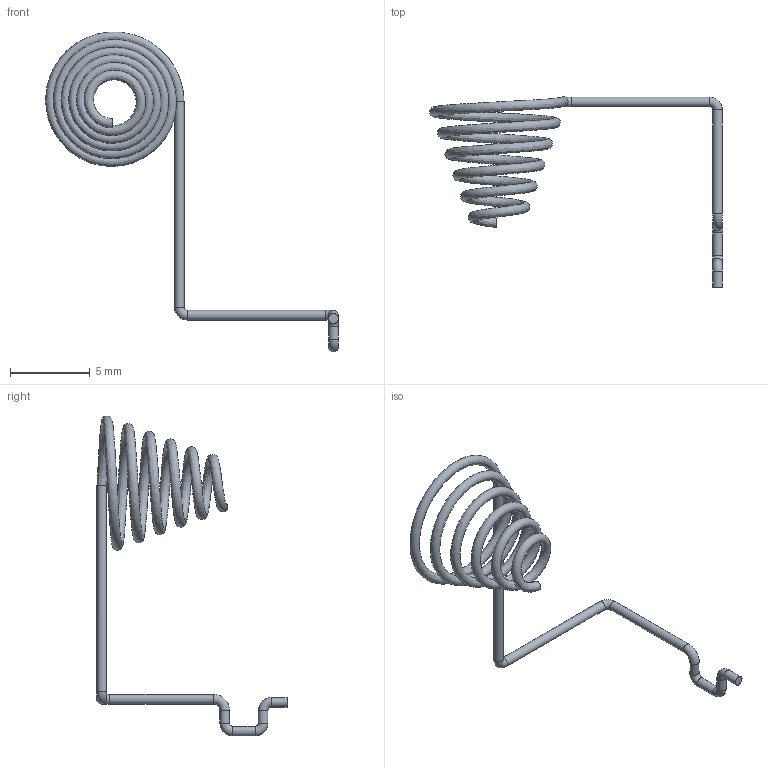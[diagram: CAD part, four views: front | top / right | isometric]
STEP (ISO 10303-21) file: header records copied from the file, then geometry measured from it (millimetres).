
FILE_DESCRIPTION(/* description */ (''),/* implementation_level */ '2;1');
FILE_NAME(/* name */ 'C:/Users/RileyStevenson/RileyS/Battery Coils/Negative Coil v9.step',/* time_stamp */ '2022-02-17T22:42:23-06:00',/* author */ (''),/* organization */ (''),/* preprocessor_version */ 'ST-DEVELOPER v18.1',/* originating_system */ 'Autodesk Translation Framework v10.13.0.1454',/* authorisation */ '');
FILE_SCHEMA (('AUTOMOTIVE_DESIGN { 1 0 10303 214 3 1 1 }'));
Length unit declared in the file: millimetre
Products named in the file (1): Negative Coil
Bounding box: 18.31 x 11.9 x 20.02 mm (x, y, z)
Volume: 38.7 mm3; surface area: 259.2 mm2
Topology: 1 solids, 1 shells, 16 faces, 41 edges, 27 vertices
Faces by surface type: cylinder 7, torus 6, plane 2, bspline 1
Full cylindrical faces by diameter (mm): 0.6 x7
Entity records: 1148 total; most frequent: CARTESIAN_POINT 695, DIRECTION 105, ORIENTED_EDGE 82, AXIS2_PLACEMENT_3D 49, EDGE_CURVE 41, CIRCLE 33, VERTEX_POINT 27, FACE_OUTER_BOUND 16
